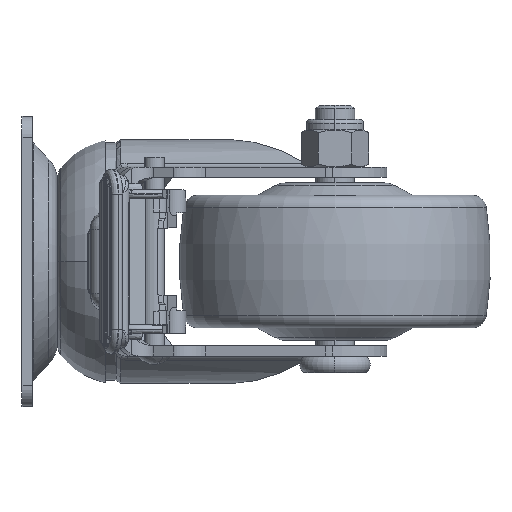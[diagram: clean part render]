
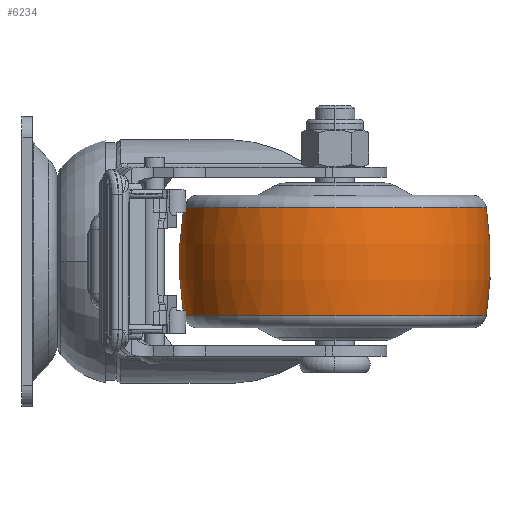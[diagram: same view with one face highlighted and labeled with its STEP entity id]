
A CAD part, left-side view. The second image highlights one B-rep face of the part: STEP entity #6234.
In plain terms, the highlighted toroidal (fillet/blend) face has major radius 48.5 mm and minor radius 86 mm.
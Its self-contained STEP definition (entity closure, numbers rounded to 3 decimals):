
#241 = AXIS2_PLACEMENT_3D ( 'NONE', #1886, #14306, #22871 ) ;
#593 = EDGE_CURVE ( 'NONE', #11785, #7233, #13770, .T. ) ;
#1724 = AXIS2_PLACEMENT_3D ( 'NONE', #19917, #26503, #7607 ) ;
#1886 = CARTESIAN_POINT ( 'NONE',  ( -41.3, -27., 0. ) ) ;
#1997 = CIRCLE ( 'NONE', #14897, 36.507 ) ;
#3012 = ORIENTED_EDGE ( 'NONE', *, *, #18246, .T. ) ;
#3423 = FACE_OUTER_BOUND ( 'NONE', #17250, .T. ) ;
#4632 = ORIENTED_EDGE ( 'NONE', *, *, #27519, .F. ) ;
#4935 = VERTEX_POINT ( 'NONE', #24489 ) ;
#6150 = ORIENTED_EDGE ( 'NONE', *, *, #19627, .T. ) ;
#6234 = ADVANCED_FACE ( 'NONE', ( #3423 ), #15392, .T. ) ;
#7233 = VERTEX_POINT ( 'NONE', #16446 ) ;
#7364 = DIRECTION ( 'NONE',  ( 0., 0., 1. ) ) ;
#7607 = DIRECTION ( 'NONE',  ( 0., 1., 0. ) ) ;
#9555 = CIRCLE ( 'NONE', #27007, 36.507 ) ;
#10033 = CARTESIAN_POINT ( 'NONE',  ( -41.3, -75.5, -13.03 ) ) ;
#10844 = VERTEX_POINT ( 'NONE', #25972 ) ;
#11785 = VERTEX_POINT ( 'NONE', #27505 ) ;
#11958 = DIRECTION ( 'NONE',  ( 0., 1., 0. ) ) ;
#12118 = DIRECTION ( 'NONE',  ( 0., 0., 1. ) ) ;
#12230 = CARTESIAN_POINT ( 'NONE',  ( -41.3, -75.5, 13.03 ) ) ;
#12488 = CARTESIAN_POINT ( 'NONE',  ( -41.3, -75.5, 0. ) ) ;
#13770 = CIRCLE ( 'NONE', #1724, 86. ) ;
#14306 = DIRECTION ( 'NONE',  ( -1., 0., 0. ) ) ;
#14485 = DIRECTION ( 'NONE',  ( 0., 1., 0. ) ) ;
#14897 = AXIS2_PLACEMENT_3D ( 'NONE', #12230, #7364, #11958 ) ;
#15392 = TOROIDAL_SURFACE ( 'NONE', #17644, -48.5, 86. ) ;
#16446 = CARTESIAN_POINT ( 'NONE',  ( -41.3, -38.993, 13.03 ) ) ;
#17250 = EDGE_LOOP ( 'NONE', ( #3012, #6150, #4632, #26862 ) ) ;
#17644 = AXIS2_PLACEMENT_3D ( 'NONE', #12488, #24987, #23009 ) ;
#18062 = CIRCLE ( 'NONE', #241, 86. ) ;
#18246 = EDGE_CURVE ( 'NONE', #11785, #10844, #9555, .T. ) ;
#19627 = EDGE_CURVE ( 'NONE', #10844, #4935, #18062, .T. ) ;
#19917 = CARTESIAN_POINT ( 'NONE',  ( -41.3, -124., 0. ) ) ;
#22871 = DIRECTION ( 'NONE',  ( 0., -1., 0. ) ) ;
#23009 = DIRECTION ( 'NONE',  ( 0., 1., 0. ) ) ;
#24489 = CARTESIAN_POINT ( 'NONE',  ( -41.3, -112.007, 13.03 ) ) ;
#24987 = DIRECTION ( 'NONE',  ( 0., 0., 1. ) ) ;
#25972 = CARTESIAN_POINT ( 'NONE',  ( -41.3, -112.007, -13.03 ) ) ;
#26503 = DIRECTION ( 'NONE',  ( 1., 0., 0. ) ) ;
#26862 = ORIENTED_EDGE ( 'NONE', *, *, #593, .F. ) ;
#27007 = AXIS2_PLACEMENT_3D ( 'NONE', #10033, #12118, #14485 ) ;
#27505 = CARTESIAN_POINT ( 'NONE',  ( -41.3, -38.993, -13.03 ) ) ;
#27519 = EDGE_CURVE ( 'NONE', #7233, #4935, #1997, .T. ) ;
